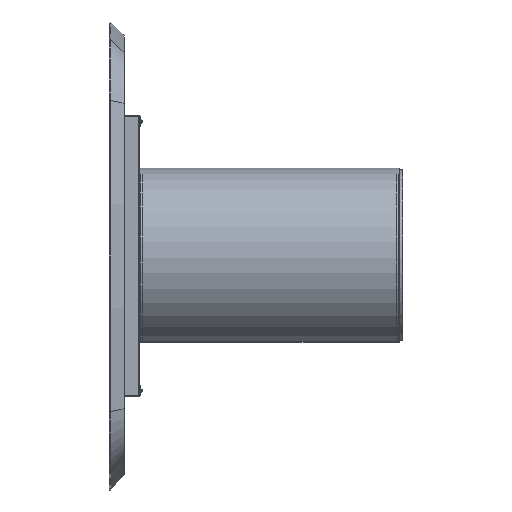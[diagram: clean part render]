
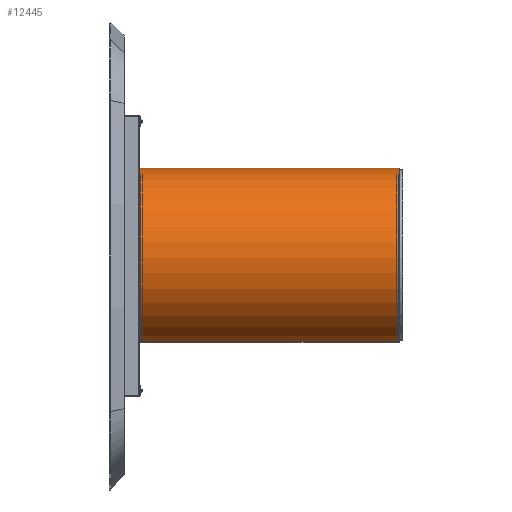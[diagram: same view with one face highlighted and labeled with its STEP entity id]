
A CAD part, left-side view. The second image highlights one B-rep face of the part: STEP entity #12445.
In plain terms, the highlighted cylindrical face has radius 230 mm (diameter 460 mm), a partial arc.
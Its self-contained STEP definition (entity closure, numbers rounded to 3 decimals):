
#714 = EDGE_CURVE ( 'NONE', #9317, #16393, #4773, .T. ) ;
#756 = CYLINDRICAL_SURFACE ( 'NONE', #8992, 230. ) ;
#2896 = CARTESIAN_POINT ( 'NONE',  ( 2., 665., -230. ) ) ;
#3088 = EDGE_LOOP ( 'NONE', ( #15228, #15148, #11662, #20279 ) ) ;
#4773 = LINE ( 'NONE', #14857, #18232 ) ;
#4878 = DIRECTION ( 'NONE',  ( 0., -1., 0. ) ) ;
#5088 = AXIS2_PLACEMENT_3D ( 'NONE', #8766, #13412, #20247 ) ;
#6807 = VERTEX_POINT ( 'NONE', #2896 ) ;
#7348 = CARTESIAN_POINT ( 'NONE',  ( 2., 665., 0. ) ) ;
#7781 = CARTESIAN_POINT ( 'NONE',  ( 2., 0., 230. ) ) ;
#8766 = CARTESIAN_POINT ( 'NONE',  ( 2., 665., 0. ) ) ;
#8992 = AXIS2_PLACEMENT_3D ( 'NONE', #7348, #13950, #10698 ) ;
#9290 = CARTESIAN_POINT ( 'NONE',  ( 2., 0., -230. ) ) ;
#9317 = VERTEX_POINT ( 'NONE', #17020 ) ;
#9515 = DIRECTION ( 'NONE',  ( 0., 1., 0. ) ) ;
#9622 = DIRECTION ( 'NONE',  ( 0., 0., 1. ) ) ;
#9864 = EDGE_CURVE ( 'NONE', #6807, #10925, #15009, .T. ) ;
#10698 = DIRECTION ( 'NONE',  ( 0., 0., -1. ) ) ;
#10735 = EDGE_CURVE ( 'NONE', #9317, #6807, #17551, .T. ) ;
#10925 = VERTEX_POINT ( 'NONE', #9290 ) ;
#11662 = ORIENTED_EDGE ( 'NONE', *, *, #10735, .F. ) ;
#12445 = ADVANCED_FACE ( 'NONE', ( #15580 ), #756, .T. ) ;
#13412 = DIRECTION ( 'NONE',  ( 0., 1., 0. ) ) ;
#13950 = DIRECTION ( 'NONE',  ( 0., -1., 0. ) ) ;
#14857 = CARTESIAN_POINT ( 'NONE',  ( 2., 665., 230. ) ) ;
#14896 = CARTESIAN_POINT ( 'NONE',  ( 2., 665., -230. ) ) ;
#15009 = LINE ( 'NONE', #14896, #19935 ) ;
#15148 = ORIENTED_EDGE ( 'NONE', *, *, #9864, .F. ) ;
#15205 = EDGE_CURVE ( 'NONE', #16393, #10925, #19474, .T. ) ;
#15228 = ORIENTED_EDGE ( 'NONE', *, *, #15205, .T. ) ;
#15580 = FACE_OUTER_BOUND ( 'NONE', #3088, .T. ) ;
#16393 = VERTEX_POINT ( 'NONE', #7781 ) ;
#17020 = CARTESIAN_POINT ( 'NONE',  ( 2., 665., 230. ) ) ;
#17551 = CIRCLE ( 'NONE', #5088, 230. ) ;
#18232 = VECTOR ( 'NONE', #4878, 1000. ) ;
#18447 = AXIS2_PLACEMENT_3D ( 'NONE', #19797, #9515, #9622 ) ;
#19474 = CIRCLE ( 'NONE', #18447, 230. ) ;
#19660 = DIRECTION ( 'NONE',  ( 0., -1., 0. ) ) ;
#19797 = CARTESIAN_POINT ( 'NONE',  ( 2., 0., 0. ) ) ;
#19935 = VECTOR ( 'NONE', #19660, 1000. ) ;
#20247 = DIRECTION ( 'NONE',  ( 0., 0., 1. ) ) ;
#20279 = ORIENTED_EDGE ( 'NONE', *, *, #714, .T. ) ;
